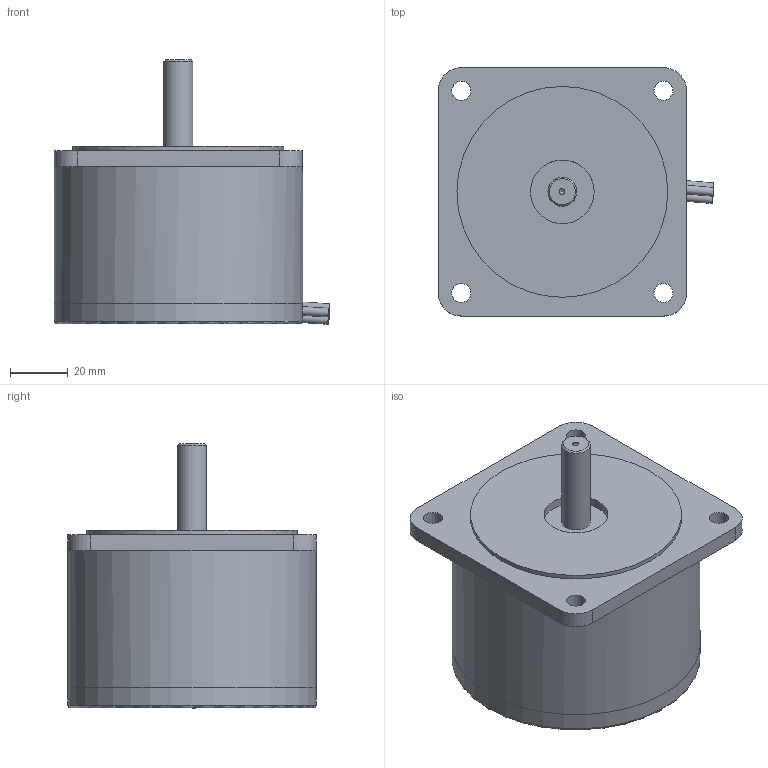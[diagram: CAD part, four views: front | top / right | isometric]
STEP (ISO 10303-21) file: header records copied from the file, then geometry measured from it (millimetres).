
FILE_DESCRIPTION((''),'2;1');
FILE_NAME('C:\Users\Reinhard\Documents\Inventor\Testschrittmotor\SM87\SM87.1L.stp','2012-11-12T22:10:21',('Reinhard'),(''),'Autodesk Inventor 2012','Autodesk Inventor 2012','');
FILE_SCHEMA(('CONFIG_CONTROL_DESIGN'));
Length unit declared in the file: millimetre
Products named in the file (1): SM87
Bounding box: 95.44 x 86 x 91.62 mm (x, y, z)
Volume: 94906.9 mm3; surface area: 57298.8 mm2
Topology: 1 solids, 1 shells, 63 faces, 156 edges, 93 vertices
Faces by surface type: cylinder 32, plane 28, cone 2, torus 1
Full cylindrical faces by diameter (mm): 2 x5, 6.6 x4, 10 x1, 22 x1, 73 x1, 78 x1, 82 x1, 86 x1
Entity records: 1937 total; most frequent: CARTESIAN_POINT 440, DIRECTION 321, ORIENTED_EDGE 270, AXIS2_PLACEMENT_3D 142, EDGE_CURVE 135, EDGE_LOOP 101, VERTEX_POINT 90, CIRCLE 72
